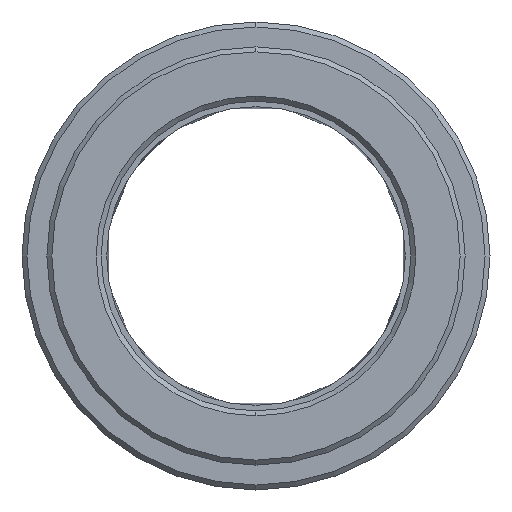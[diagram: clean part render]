
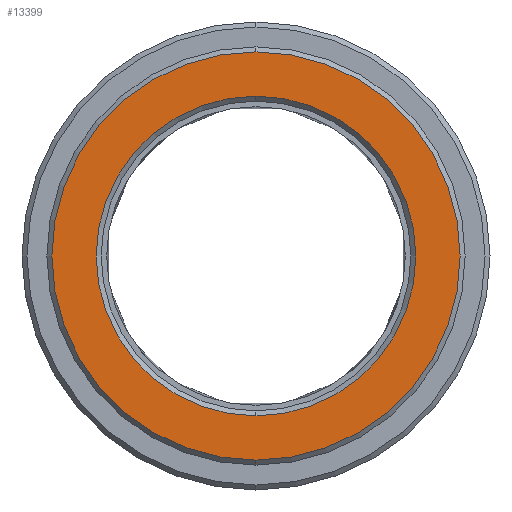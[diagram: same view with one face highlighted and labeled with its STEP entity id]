
A CAD part, left-side view. The second image highlights one B-rep face of the part: STEP entity #13399.
In plain terms, the highlighted planar face has unit normal (-1, 0, 0).
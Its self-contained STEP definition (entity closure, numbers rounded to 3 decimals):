
#9154=CARTESIAN_POINT('',(-8.,0.,0.));
#9155=DIRECTION('',(1.,0.,0.));
#9156=DIRECTION('',(0.,0.,1.));
#9157=AXIS2_PLACEMENT_3D('',#9154,#9155,#9156);
#9159=CARTESIAN_POINT('',(-8.,0.,
0.));
#9160=DIRECTION('',(1.,0.,0.));
#9161=DIRECTION('',(0.,0.,-1.));
#9162=AXIS2_PLACEMENT_3D('',#9159,#9160,#9161);
#9164=CARTESIAN_POINT('',(-8.,0.,0.));
#9165=DIRECTION('',(1.,0.,0.));
#9166=DIRECTION('',(0.,0.,1.));
#9167=AXIS2_PLACEMENT_3D('',#9164,#9165,#9166);
#9169=CARTESIAN_POINT('',(-8.,0.,
0.));
#9170=DIRECTION('',(1.,0.,0.));
#9171=DIRECTION('',(0.,0.,-1.));
#9172=AXIS2_PLACEMENT_3D('',#9169,#9170,#9171);
#9738=CARTESIAN_POINT('',(-8.,0.,20.5));
#9739=CARTESIAN_POINT('',(-8.,0.,-20.5));
#9740=VERTEX_POINT('',#9738);
#9741=VERTEX_POINT('',#9739);
#9742=CARTESIAN_POINT('',(-8.,0.,16.05));
#9743=CARTESIAN_POINT('',(-8.,0.,-16.05));
#9744=VERTEX_POINT('',#9742);
#9745=VERTEX_POINT('',#9743);
#13384=CARTESIAN_POINT('',(-8.,0.,0.));
#13385=DIRECTION('',(1.,0.,0.));
#13386=DIRECTION('',(0.,0.,1.));
#13387=AXIS2_PLACEMENT_3D('',#13384,#13385,#13386);
#13388=PLANE('',#13387);
#13389=ORIENTED_EDGE('',*,*,#13351,.T.);
#13390=ORIENTED_EDGE('',*,*,#13366,.T.);
#13391=EDGE_LOOP('',(#13389,#13390));
#13392=FACE_OUTER_BOUND('',#13391,.F.);
#13394=ORIENTED_EDGE('',*,*,#13393,.F.);
#13396=ORIENTED_EDGE('',*,*,#13395,.F.);
#13397=EDGE_LOOP('',(#13394,#13396));
#13398=FACE_BOUND('',#13397,.F.);
#13399=ADVANCED_FACE('',(#13392,#13398),#13388,.F.);
#9158=CIRCLE('',#9157,20.5);
#9163=CIRCLE('',#9162,20.5);
#9168=CIRCLE('',#9167,16.05);
#9173=CIRCLE('',#9172,16.05);
#13351=EDGE_CURVE('',#9740,#9741,#9158,.T.);
#13366=EDGE_CURVE('',#9741,#9740,#9163,.T.);
#13393=EDGE_CURVE('',#9744,#9745,#9168,.T.);
#13395=EDGE_CURVE('',#9745,#9744,#9173,.T.);
